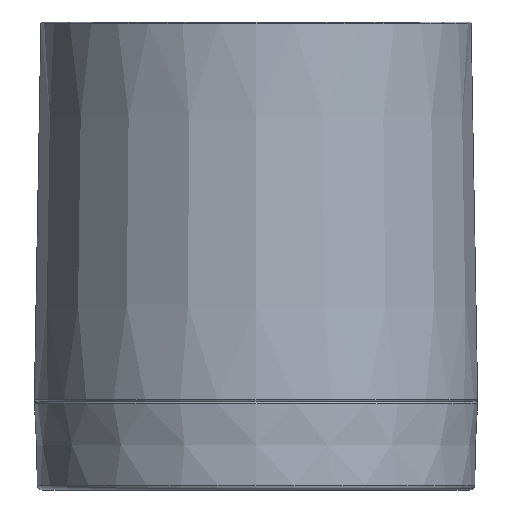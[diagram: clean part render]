
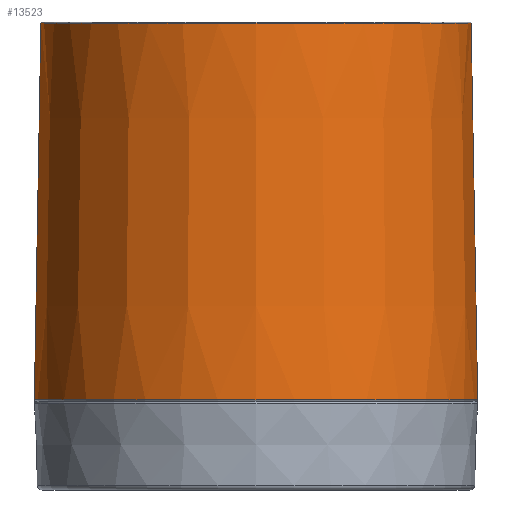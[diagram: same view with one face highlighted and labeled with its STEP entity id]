
A CAD part, left-side view. The second image highlights one B-rep face of the part: STEP entity #13523.
In plain terms, the highlighted conical face has half-angle 1 degrees and reference radius 44.328 mm.
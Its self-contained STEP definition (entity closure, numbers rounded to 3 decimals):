
#545 = AXIS2_PLACEMENT_3D ( 'NONE', #34461, #31622, #33943 ) ;
#1692 = FACE_OUTER_BOUND ( 'NONE', #14473, .T. ) ;
#2038 = EDGE_CURVE ( 'NONE', #22093, #8840, #18963, .T. ) ;
#4826 = DIRECTION ( 'NONE',  ( 0., -0.017, -1. ) ) ;
#5147 = VECTOR ( 'NONE', #4826, 1000. ) ;
#5384 = DIRECTION ( 'NONE',  ( 0., 0., 1. ) ) ;
#6171 = DIRECTION ( 'NONE',  ( 0., -0.017, 1. ) ) ;
#7344 = AXIS2_PLACEMENT_3D ( 'NONE', #20804, #23640, #34464 ) ;
#8840 = VERTEX_POINT ( 'NONE', #12013 ) ;
#9640 = ORIENTED_EDGE ( 'NONE', *, *, #10108, .F. ) ;
#9823 = EDGE_CURVE ( 'NONE', #8840, #28947, #10499, .T. ) ;
#10108 = EDGE_CURVE ( 'NONE', #15305, #22093, #32610, .T. ) ;
#10499 = LINE ( 'NONE', #24128, #5147 ) ;
#12013 = CARTESIAN_POINT ( 'NONE',  ( 0., -43.661, 78.205 ) ) ;
#12549 = ORIENTED_EDGE ( 'NONE', *, *, #9823, .F. ) ;
#13523 = ADVANCED_FACE ( 'NONE', ( #1692 ), #24275, .T. ) ;
#14473 = EDGE_LOOP ( 'NONE', ( #9640, #32856, #12549, #14666 ) ) ;
#14666 = ORIENTED_EDGE ( 'NONE', *, *, #2038, .F. ) ;
#15305 = VERTEX_POINT ( 'NONE', #19771 ) ;
#16202 = DIRECTION ( 'NONE',  ( 0., 1., 0. ) ) ;
#18947 = CARTESIAN_POINT ( 'NONE',  ( 0., 44.995, 1.805 ) ) ;
#18963 = CIRCLE ( 'NONE', #31412, 43.661 ) ;
#19335 = VECTOR ( 'NONE', #6171, 1000. ) ;
#19771 = CARTESIAN_POINT ( 'NONE',  ( 0., 44.995, 1.805 ) ) ;
#20804 = CARTESIAN_POINT ( 'NONE',  ( 0., 0., 1.805 ) ) ;
#22093 = VERTEX_POINT ( 'NONE', #27752 ) ;
#23640 = DIRECTION ( 'NONE',  ( 0., 0., 1. ) ) ;
#24128 = CARTESIAN_POINT ( 'NONE',  ( 0., -43.661, 78.205 ) ) ;
#24275 = CONICAL_SURFACE ( 'NONE', #545, 44.328, 0.017 ) ;
#27155 = EDGE_CURVE ( 'NONE', #15305, #28947, #30536, .T. ) ;
#27752 = CARTESIAN_POINT ( 'NONE',  ( 0., 43.661, 78.205 ) ) ;
#28791 = CARTESIAN_POINT ( 'NONE',  ( 0., -44.995, 1.805 ) ) ;
#28947 = VERTEX_POINT ( 'NONE', #28791 ) ;
#29653 = CARTESIAN_POINT ( 'NONE',  ( 0., 0., 78.205 ) ) ;
#30536 = CIRCLE ( 'NONE', #7344, 44.995 ) ;
#31412 = AXIS2_PLACEMENT_3D ( 'NONE', #29653, #5384, #16202 ) ;
#31622 = DIRECTION ( 'NONE',  ( 0., 0., -1. ) ) ;
#32610 = LINE ( 'NONE', #18947, #19335 ) ;
#32856 = ORIENTED_EDGE ( 'NONE', *, *, #27155, .T. ) ;
#33943 = DIRECTION ( 'NONE',  ( 0., -1., 0. ) ) ;
#34461 = CARTESIAN_POINT ( 'NONE',  ( 0., 0., 40.005 ) ) ;
#34464 = DIRECTION ( 'NONE',  ( 0., 1., 0. ) ) ;
